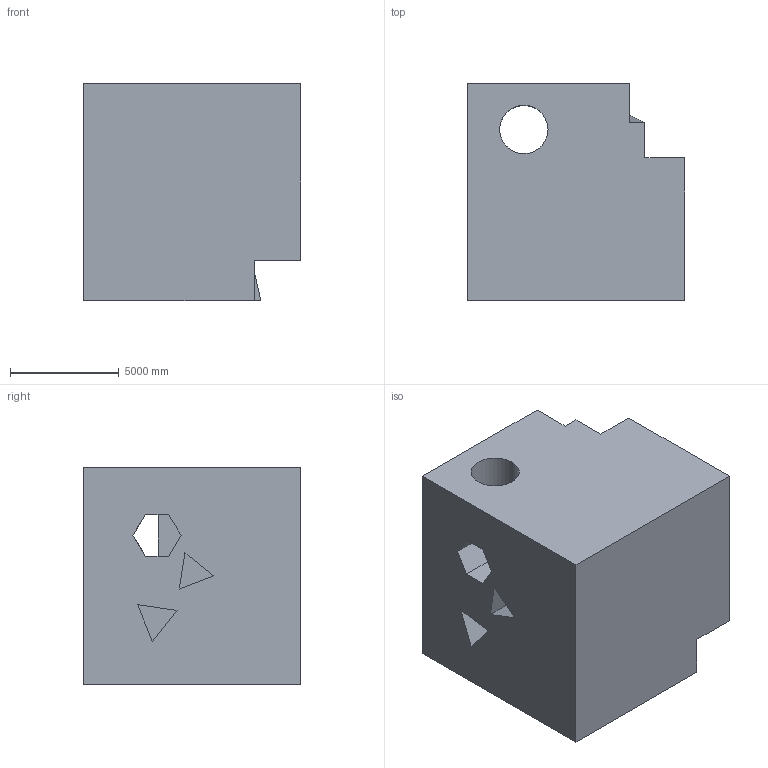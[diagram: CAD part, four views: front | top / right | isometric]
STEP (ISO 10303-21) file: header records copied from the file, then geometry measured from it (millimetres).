
FILE_DESCRIPTION (( 'STEP AP203' ), '1' );
FILE_NAME ('765.STEP', '2022-07-29T13:03:18', ( 'user' ), ( '' ), 'SwSTEP 2.0', 'SolidWorks 2021', '' );
FILE_SCHEMA (( 'CONFIG_CONTROL_DESIGN' ));
Length unit declared in the file: centimetre
Products named in the file (1): 765
Bounding box: 10000 x 10000 x 10000 mm (x, y, z)
Volume: 815171949248.6 mm3; surface area: 719027406.2 mm2
Topology: 1 solids, 1 shells, 40 faces, 117 edges, 78 vertices
Faces by surface type: plane 38, cylinder 2
Entity records: 1400 total; most frequent: CARTESIAN_POINT 248, ORIENTED_EDGE 234, DIRECTION 201, EDGE_CURVE 117, LINE 107, VECTOR 107, VERTEX_POINT 78, EDGE_LOOP 47
